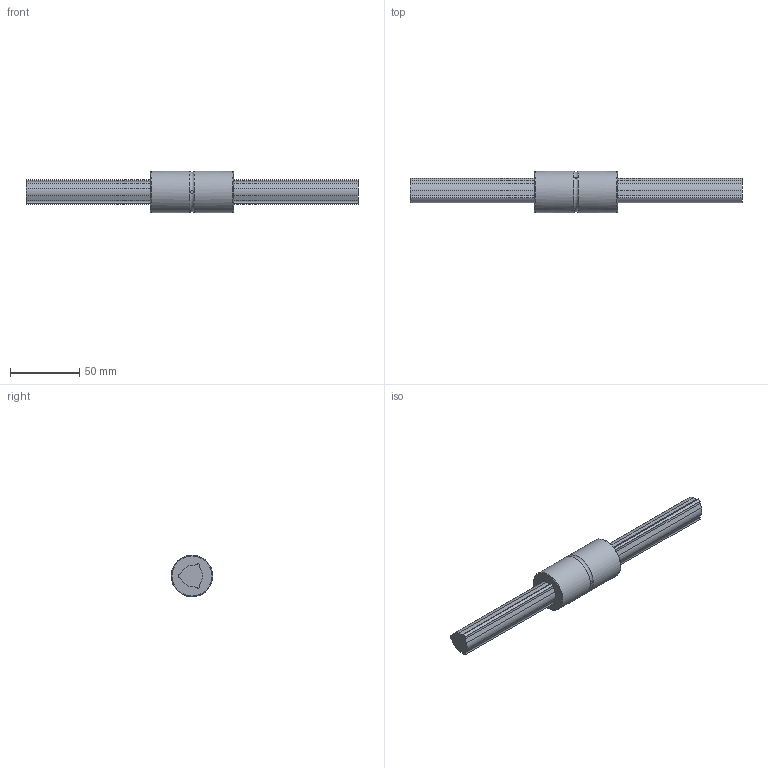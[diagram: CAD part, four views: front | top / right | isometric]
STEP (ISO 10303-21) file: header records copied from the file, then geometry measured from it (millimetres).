
FILE_DESCRIPTION(/* description */ ('STEP AP214'),/* implementation_level */ '2;1');
FILE_NAME(/* name */ 'LBST20+240L(60900)',/* time_stamp */ '2024-09-04T12:53:00+02:00',/* author */ ('License CC BY-ND 4.0'),/* organization */ ('CADENAS'),/* preprocessor_version */ 'ST-DEVELOPER v19.3',/* originating_system */ 'PARTsolutions',/* authorisation */ ' ');
FILE_SCHEMA (('AUTOMOTIVE_DESIGN {1 0 10303 214 3 1 1}'));
Length unit declared in the file: millimetre
Products named in the file (3): LBST20+240L(60900); LBST201240 Spline Shaft; LBST20 Nut
Assembly tree (2 placements, depth 2):
  LBST20+240L(60900)
    LBST201240 Spline Shaft
    LBST20 Nut
Bounding box: 240 x 30 x 30 mm (x, y, z)
Volume: 79427 mm3; surface area: 24288.7 mm2
Topology: 3 solids, 3 shells, 57 faces, 148 edges, 99 vertices
Faces by surface type: cylinder 31, plane 22, torus 4
Full cylindrical faces by diameter (mm): 2 x3, 30 x2
Entity records: 1796 total; most frequent: CARTESIAN_POINT 341, DIRECTION 306, ORIENTED_EDGE 272, EDGE_CURVE 136, AXIS2_PLACEMENT_3D 118, VERTEX_POINT 94, LINE 70, VECTOR 70
